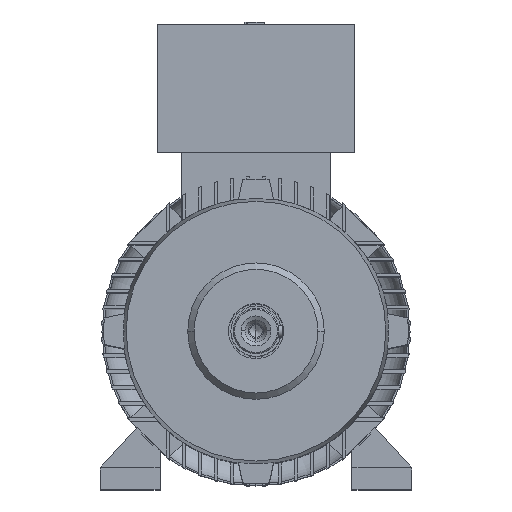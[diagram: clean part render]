
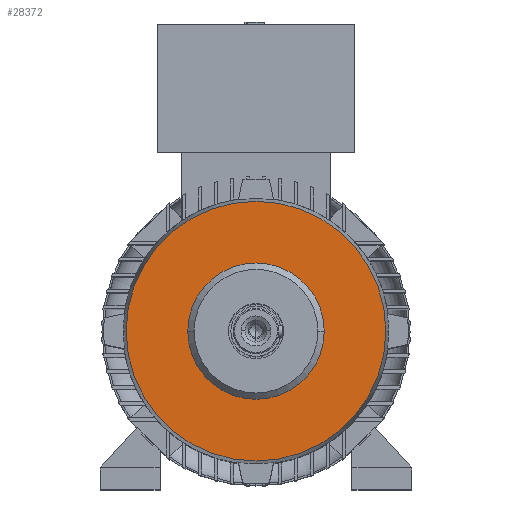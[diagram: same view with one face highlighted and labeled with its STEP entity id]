
A CAD part, top view. The second image highlights one B-rep face of the part: STEP entity #28372.
In plain terms, the highlighted planar face has unit normal (0, 0, 1).
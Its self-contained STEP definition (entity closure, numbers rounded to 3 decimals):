
#1555 = AXIS2_PLACEMENT_3D ( 'NONE', #7176, #15857, #1756 ) ;
#1756 = DIRECTION ( 'NONE',  ( -1., 0., 0. ) ) ;
#2259 = VERTEX_POINT ( 'NONE', #33087 ) ;
#2651 = EDGE_CURVE ( 'NONE', #21830, #27081, #35518, .T. ) ;
#3182 = CIRCLE ( 'NONE', #3919, 108.312 ) ;
#3919 = AXIS2_PLACEMENT_3D ( 'NONE', #33024, #24489, #21730 ) ;
#4215 = AXIS2_PLACEMENT_3D ( 'NONE', #9800, #21347, #18959 ) ;
#4786 = ORIENTED_EDGE ( 'NONE', *, *, #33776, .F. ) ;
#6083 = CARTESIAN_POINT ( 'NONE',  ( 0., 0., 170.72 ) ) ;
#7176 = CARTESIAN_POINT ( 'NONE',  ( 0., 0., 170.72 ) ) ;
#9800 = CARTESIAN_POINT ( 'NONE',  ( 0., 0., 170.72 ) ) ;
#10753 = DIRECTION ( 'NONE',  ( 0., 0., -1. ) ) ;
#13552 = PLANE ( 'NONE',  #14038 ) ;
#14038 = AXIS2_PLACEMENT_3D ( 'NONE', #36457, #10753, #30807 ) ;
#15857 = DIRECTION ( 'NONE',  ( 0., 0., -1. ) ) ;
#17501 = VERTEX_POINT ( 'NONE', #18702 ) ;
#17636 = DIRECTION ( 'NONE',  ( -1., 0., 0. ) ) ;
#17761 = DIRECTION ( 'NONE',  ( 0., 0., 1. ) ) ;
#18702 = CARTESIAN_POINT ( 'NONE',  ( -108.312, 0., 170.72 ) ) ;
#18959 = DIRECTION ( 'NONE',  ( -1., 0., 0. ) ) ;
#19468 = FACE_OUTER_BOUND ( 'NONE', #24889, .T. ) ;
#19779 = CIRCLE ( 'NONE', #1555, 108.312 ) ;
#21267 = FACE_BOUND ( 'NONE', #22044, .T. ) ;
#21347 = DIRECTION ( 'NONE',  ( 0., 0., 1. ) ) ;
#21730 = DIRECTION ( 'NONE',  ( -1., 0., 0. ) ) ;
#21830 = VERTEX_POINT ( 'NONE', #32406 ) ;
#22024 = CARTESIAN_POINT ( 'NONE',  ( 56.88, 0., 170.72 ) ) ;
#22044 = EDGE_LOOP ( 'NONE', ( #37227, #4786 ) ) ;
#22949 = ORIENTED_EDGE ( 'NONE', *, *, #23011, .F. ) ;
#23011 = EDGE_CURVE ( 'NONE', #17501, #2259, #19779, .T. ) ;
#23025 = ORIENTED_EDGE ( 'NONE', *, *, #29475, .F. ) ;
#24489 = DIRECTION ( 'NONE',  ( 0., 0., -1. ) ) ;
#24889 = EDGE_LOOP ( 'NONE', ( #22949, #23025 ) ) ;
#25370 = CIRCLE ( 'NONE', #29781, 56.88 ) ;
#27081 = VERTEX_POINT ( 'NONE', #22024 ) ;
#28372 = ADVANCED_FACE ( 'NONE', ( #19468, #21267 ), #13552, .F. ) ;
#29475 = EDGE_CURVE ( 'NONE', #2259, #17501, #3182, .T. ) ;
#29781 = AXIS2_PLACEMENT_3D ( 'NONE', #6083, #17761, #17636 ) ;
#30807 = DIRECTION ( 'NONE',  ( -1., 0., 0. ) ) ;
#32406 = CARTESIAN_POINT ( 'NONE',  ( -56.88, 0., 170.72 ) ) ;
#33024 = CARTESIAN_POINT ( 'NONE',  ( 0., 0., 170.72 ) ) ;
#33087 = CARTESIAN_POINT ( 'NONE',  ( 108.312, 0., 170.72 ) ) ;
#33776 = EDGE_CURVE ( 'NONE', #27081, #21830, #25370, .T. ) ;
#35518 = CIRCLE ( 'NONE', #4215, 56.88 ) ;
#36457 = CARTESIAN_POINT ( 'NONE',  ( 0., 108.312, 170.72 ) ) ;
#37227 = ORIENTED_EDGE ( 'NONE', *, *, #2651, .F. ) ;
